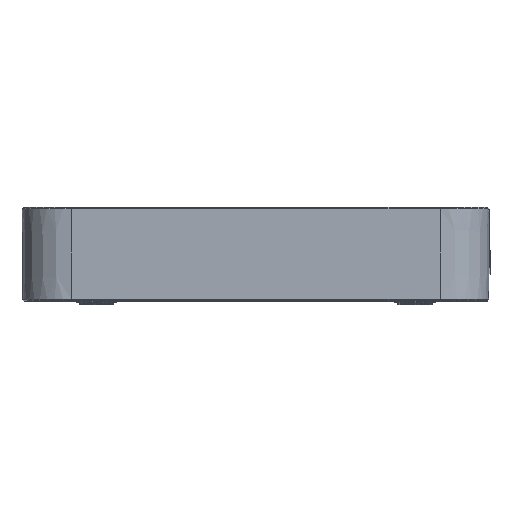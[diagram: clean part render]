
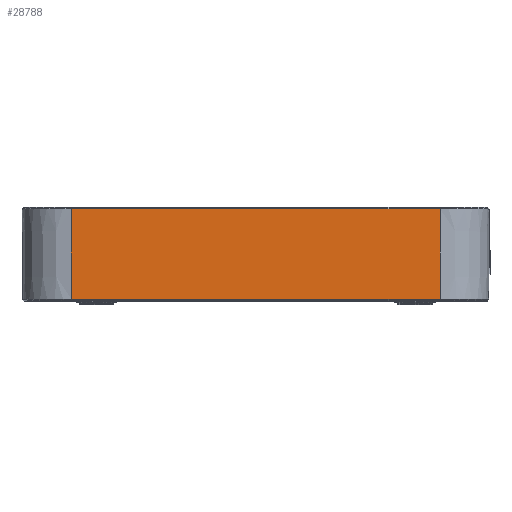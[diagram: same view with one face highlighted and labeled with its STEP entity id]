
A CAD part, top view. The second image highlights one B-rep face of the part: STEP entity #28788.
In plain terms, the highlighted planar face has unit normal (0, -0.009, 1).
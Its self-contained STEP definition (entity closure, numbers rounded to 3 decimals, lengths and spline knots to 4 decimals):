
#7392=DIRECTION('',(-1.,0.,0.));
#7393=VECTOR('',#7392,4.55);
#7394=CARTESIAN_POINT('',(2.275,0.0197,2.8752));
#7395=LINE('',#7394,#7393);
#7396=DIRECTION('',(0.,1.,0.009));
#7397=VECTOR('',#7396,1.1124);
#7398=CARTESIAN_POINT('',(-2.275,0.0197,
2.8752));
#7399=LINE('',#7398,#7397);
#7400=DIRECTION('',(-1.,0.,0.));
#7401=VECTOR('',#7400,4.55);
#7402=CARTESIAN_POINT('',(2.275,1.132,2.8849));
#7403=LINE('',#7402,#7401);
#7417=DIRECTION('',(0.,1.,0.009));
#7418=VECTOR('',#7417,1.1124);
#7419=CARTESIAN_POINT('',(2.275,0.0197,2.8752));
#7420=LINE('',#7419,#7418);
#18711=CARTESIAN_POINT('',(2.275,0.0197,2.8752));
#18712=VERTEX_POINT('',#18711);
#18715=CARTESIAN_POINT('',(-2.275,0.0197,
2.8752));
#18716=VERTEX_POINT('',#18715);
#18727=CARTESIAN_POINT('',(-2.275,1.132,
2.8849));
#18728=VERTEX_POINT('',#18727);
#18729=CARTESIAN_POINT('',(2.275,1.132,2.8849));
#18730=VERTEX_POINT('',#18729);
#28775=CARTESIAN_POINT('',(-3.3823,0.,2.875));
#28776=DIRECTION('',(0.,-0.009,1.));
#28777=DIRECTION('',(1.,0.,0.));
#28778=AXIS2_PLACEMENT_3D('',#28775,#28776,#28777);
#28779=PLANE('',#28778);
#28781=ORIENTED_EDGE('',*,*,#28780,.T.);
#28782=ORIENTED_EDGE('',*,*,#25366,.T.);
#28783=ORIENTED_EDGE('',*,*,#28766,.F.);
#28785=ORIENTED_EDGE('',*,*,#28784,.F.);
#28786=EDGE_LOOP('',(#28781,#28782,#28783,#28785));
#28787=FACE_OUTER_BOUND('',#28786,.F.);
#28788=ADVANCED_FACE('',(#28787),#28779,.T.);
#25366=EDGE_CURVE('',#18716,#18728,#7399,.T.);
#28766=EDGE_CURVE('',#18730,#18728,#7403,.T.);
#28780=EDGE_CURVE('',#18712,#18716,#7395,.T.);
#28784=EDGE_CURVE('',#18712,#18730,#7420,.T.);
